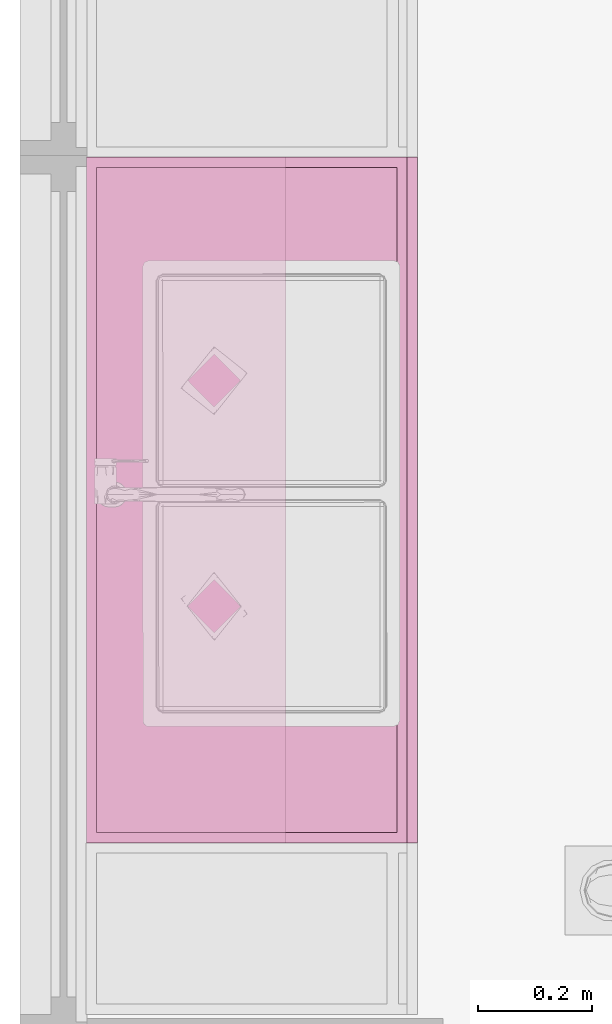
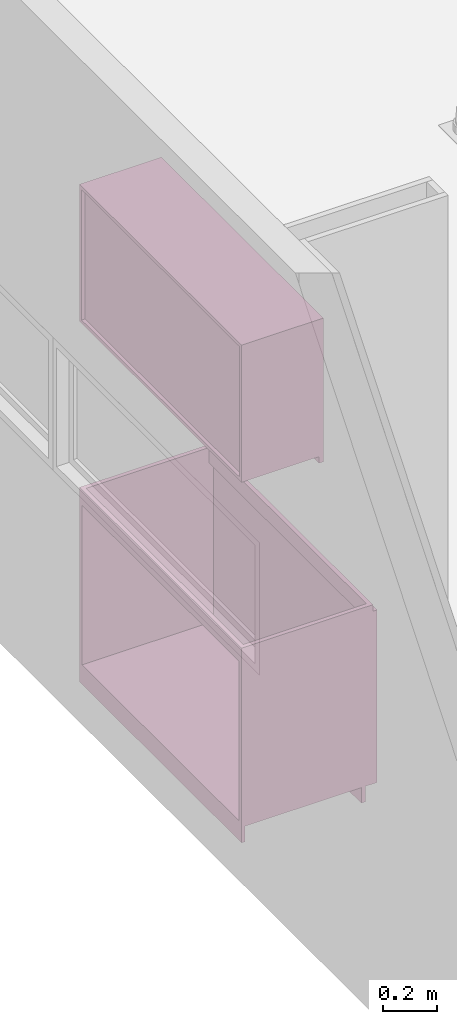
# One storey, part 5 of 5: 2 furnishings.
"""IFC2X3 building model written with IfcOpenShell, lengths in centimetres."""

from ifc_helpers import new_model, entity, si_unit, converted_unit, derived_unit, direction, frame, frame_2d, origin, origin_2d_with_axis, place, context, subcontext, project, spatial, rectangle, extrude, source, transform, mapped, material, material_list, type_object, type_shapes, element, save


model = new_model("IFC2X3")

# Units and contexts
model_context = context("Model", 3, precision=0.001, world=origin(), true_north=direction((6.123233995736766e-17, 1.0)))
body_context = subcontext(model_context, "Body", "Model", "MODEL_VIEW")
ifc_project = project(units=[si_unit("LENGTHUNIT", "METRE", prefix="CENTI"), si_unit("AREAUNIT", "SQUARE_METRE"), si_unit("VOLUMEUNIT", "CUBIC_METRE"), converted_unit("PLANEANGLEUNIT", "DEGREE", entity("IfcPlaneAngleMeasure", 0.017453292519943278), si_unit("PLANEANGLEUNIT", "RADIAN"), dimensions=[0, 0, 0, 0, 0, 0, 0]), si_unit("POWERUNIT", "WATT"), derived_unit("USERDEFINED", [(si_unit("MASSUNIT", "GRAM", prefix="KILO"), 1), (si_unit("TIMEUNIT", "SECOND"), -3)]), si_unit("FORCEUNIT", "NEWTON", prefix="KILO"), derived_unit("THERMALTRANSMITTANCEUNIT", [(si_unit("MASSUNIT", "GRAM", prefix="KILO"), 1), (si_unit("TIMEUNIT", "SECOND"), -3), (si_unit("THERMODYNAMICTEMPERATUREUNIT", "KELVIN"), -1)]), derived_unit("USERDEFINED", [(si_unit("MASSUNIT", "GRAM", prefix="KILO"), 1), (si_unit("THERMODYNAMICTEMPERATUREUNIT", "KELVIN"), -1), (si_unit("TIMEUNIT", "SECOND"), -2)]), derived_unit("THERMALRESISTANCEUNIT", [(si_unit("MASSUNIT", "GRAM", prefix="KILO"), -1), (si_unit("TIMEUNIT", "SECOND"), 3), (si_unit("THERMODYNAMICTEMPERATUREUNIT", "KELVIN"), 1)]), derived_unit("USERDEFINED", [(si_unit("MASSUNIT", "GRAM", prefix="KILO"), -1), (si_unit("TIMEUNIT", "SECOND"), 3), (si_unit("LENGTHUNIT", "METRE"), -2), (si_unit("LUMINOUSFLUXUNIT", "LUMEN"), 1)]), si_unit("LUMINOUSFLUXUNIT", "LUMEN")], contexts=[model_context])

# Site, building, storey, space
site_placement = place(None, origin())
site = spatial("IfcSite", under=ifc_project, at=site_placement, Name="Default", CompositionType="ELEMENT")
building_placement = place(site_placement, origin())
building = spatial("IfcBuilding", under=site, at=building_placement, Name="Workshop Hbaitáculo - Refugio Tierra del Fuego", CompositionType="ELEMENT")
storey_placement = place(building_placement, frame((0.0, 0.0, 123.0)))
storey = spatial("IfcBuildingStorey", under=building, at=storey_placement, Name="NPT", CompositionType="ELEMENT", Elevation=123.0)
space_placement = place(storey_placement, frame((11.549999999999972, -294.2500000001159, 0.0)))
space = spatial("IfcSpace", under=storey, at=space_placement, Name="4", CompositionType="ELEMENT", InteriorOrExteriorSpace="INTERNAL")

# Furnishings
ifc_material_1 = material(Name="Melamina Puertas Mueble de Cocina")
ifc_material_2 = material(Name="<Unnamed>")
ifc_material_list_1 = material_list([ifc_material_1, ifc_material_2])
furniture_type_1 = type_object("IfcFurnitureType", Name="GDV_FAM_M05e_Lavaplatos:GDV_FAM_M05e_Lavaplatos", AssemblyPlace="NOTDEFINED", material=ifc_material_list_1)
shared_shape_1 = source(origin(), body_context, "Body", "SweptSolid", [
    extrude(rectangle(XDim=1.7999999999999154, YDim=56.20000000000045, at=frame_2d((2.708944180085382e-14, -3.552713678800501e-15), x_axis=(1.0, 0.0))), frame((39.49999999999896, -260.1000000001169, 130.0), z_axis=(0.0, 0.0, 1.0), x_axis=(0.0, -1.0, 0.0)), (0.0, 0.0, 1.0), 81.00000000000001),
    extrude(rectangle(XDim=1.800000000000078, YDim=56.20000000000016, at=origin_2d_with_axis()), frame((39.49999999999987, -141.90000000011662, 130.0), z_axis=(0.0, 0.0, 1.0), x_axis=(0.0, -1.0, 0.0)), (0.0, 0.0, 1.0), 81.00000000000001),
    extrude(rectangle(XDim=116.40000000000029, YDim=56.20000000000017, at=frame_2d((0.0, -5.329070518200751e-15), x_axis=(1.0, 0.0))), frame((39.49999999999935, -201.0, 130.0), z_axis=(0.0, 0.0, 1.0), x_axis=(0.0, -1.0, 0.0)), (0.0, 0.0, 1.0), 1.7999999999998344),
    extrude(rectangle(XDim=120.0, YDim=1.5000000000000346, at=origin_2d_with_axis()), frame((12.149999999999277, -201.0, 123.0), z_axis=(0.0, 0.0, 1.0), x_axis=(0.0, -1.0, 0.0)), (0.0, 0.0, 1.0), 7.000000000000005),
    extrude(rectangle(XDim=116.40000000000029, YDim=1.8000000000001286, at=frame_2d((-2.4868995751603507e-14, -8.326672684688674e-16), x_axis=(1.0, 0.0))), frame((12.299999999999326, -201.0, 204.0), z_axis=(0.0, 0.0, 1.0), x_axis=(0.0, -1.0, 0.0)), (0.0, 0.0, 1.0), 6.999999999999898),
    extrude(rectangle(XDim=116.4000000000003, YDim=1.7999999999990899, at=frame_2d((-1.0658141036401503e-14, 0.0), x_axis=(1.0, 0.0))), frame((66.69999999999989, -201.0, 204.0), z_axis=(0.0, 0.0, 1.0), x_axis=(0.0, -1.0, 0.0)), (0.0, 0.0, 1.0), 7.000000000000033),
    extrude(rectangle(XDim=60.0, YDim=1.7999999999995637, at=frame_2d((-2.6645352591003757e-14, 6.772360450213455e-15), x_axis=(1.0, 0.0))), frame((68.49999999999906, -231.0, 130.0), z_axis=(0.0, 0.0, 1.0), x_axis=(0.0, -1.0, 0.0)), (0.0, 0.0, 1.0), 78.00000000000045),
    extrude(rectangle(XDim=60.0, YDim=1.7999999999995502, at=frame_2d((-1.4210854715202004e-14, -6.772360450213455e-15), x_axis=(1.0, 0.0))), frame((68.49999999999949, -171.0, 130.0), z_axis=(0.0, 0.0, 1.0), x_axis=(0.0, -1.0, 0.0)), (0.0, 0.0, 1.0), 78.00000000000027),
    extrude(rectangle(XDim=120.0, YDim=1.7999999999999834, at=origin_2d_with_axis()), frame((63.49999999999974, -201.0, 123.0), z_axis=(0.0, 0.0, 1.0), x_axis=(0.0, -1.0, 0.0)), (0.0, 0.0, 1.0), 7.000000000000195),
])
type_shapes(furniture_type_1, [shared_shape_1])
furnishing_1_placement = place(space_placement, frame((-11.549999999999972, 294.2500000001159, -123.0)))
element("IfcFurnishingElement", 1, at=furnishing_1_placement, inside=space, type_object=furniture_type_1, material=ifc_material_list_1, Name="GDV_FAM_M05e_Lavaplatos:GDV_FAM_M05e_Lavaplatos", ObjectType="GDV_FAM_M05e_Lavaplatos:GDV_FAM_M05e_Lavaplatos", context=body_context, shape_type="MappedRepresentation", body=[
    mapped(shared_shape_1, transform((0.0, 0.0, 0.0), scale=1.0)),
])
ifc_material_3 = material(Name="Melamina Muebles Cocina")
ifc_material_list_2 = material_list([ifc_material_1, ifc_material_3])
furniture_type_2 = type_object("IfcFurnitureType", Name="GDV_FAM_M04c_Aereo doble logia:GDV_FAM_M04c_Aereo doble logia", AssemblyPlace="NOTDEFINED", material=ifc_material_list_2)
shared_shape_2 = source(origin(), body_context, "Body", "SweptSolid", [
    extrude(rectangle(XDim=60.0, YDim=1.7999999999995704, at=frame_2d((0.0, 3.3861802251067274e-15), x_axis=(1.0, 0.0))), frame((90.0, -34.09999999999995, 0.0), z_axis=(0.0, 0.0, 1.0), x_axis=(-1.0, 0.0, 0.0)), (0.0, 0.0, 1.0), 65.00000000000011),
    extrude(rectangle(XDim=117.00000000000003, YDim=27.18293545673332, at=origin_2d_with_axis()), frame((60.0, -16.59146772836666, 33.250000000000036), z_axis=(0.0, 0.0, 1.0), x_axis=(-1.0, 0.0, 0.0)), (0.0, 0.0, 1.0), 1.4999999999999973),
    extrude(rectangle(XDim=60.0, YDim=1.7999999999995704, at=frame_2d((0.0, 3.3861802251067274e-15), x_axis=(1.0, 0.0))), frame((30.0, -34.09999999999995, 0.0), z_axis=(0.0, 0.0, 1.0), x_axis=(-1.0, 0.0, 0.0)), (0.0, 0.0, 1.0), 65.00000000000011),
    extrude(rectangle(XDim=117.00000000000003, YDim=33.199999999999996, at=origin_2d_with_axis()), frame((60.0, -16.599999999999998, 63.500000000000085), z_axis=(0.0, 0.0, 1.0), x_axis=(-1.0, 0.0, 0.0)), (0.0, 0.0, 1.0), 1.5000000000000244),
    extrude(rectangle(XDim=117.00000000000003, YDim=1.4999999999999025, at=origin_2d_with_axis()), frame((60.0, -2.2500000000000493, 4.500000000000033), z_axis=(0.0, 0.0, 1.0), x_axis=(-1.0, 0.0, 0.0)), (0.0, 0.0, 1.0), 59.00000000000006),
    extrude(rectangle(XDim=33.199999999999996, YDim=1.5000000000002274, at=origin_2d_with_axis()), frame((119.25000000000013, -16.599999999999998, 3.0), z_axis=(0.0, 0.0, 1.0), x_axis=(0.0, 1.0, 0.0)), (0.0, 0.0, 1.0), 61.99999999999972),
    extrude(rectangle(XDim=33.199999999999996, YDim=1.5, at=origin_2d_with_axis()), frame((0.75, -16.599999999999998, 3.0), z_axis=(0.0, 0.0, 1.0), x_axis=(0.0, 1.0, 0.0)), (0.0, 0.0, 1.0), 61.99999999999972),
    extrude(rectangle(XDim=117.00000000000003, YDim=33.200000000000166, at=origin_2d_with_axis()), frame((60.0, -16.600000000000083, 3.0), z_axis=(0.0, 0.0, 1.0), x_axis=(-1.0, 0.0, 0.0)), (0.0, 0.0, 1.0), 1.499999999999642),
])
type_shapes(furniture_type_2, [shared_shape_2])
furnishing_2_placement = place(space_placement, frame((-0.15000000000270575, 33.250000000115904, 160.0), z_axis=(0.0, 0.0, 1.0), x_axis=(0.0, 1.0, 0.0)))
element("IfcFurnishingElement", 2, at=furnishing_2_placement, inside=space, type_object=furniture_type_2, material=ifc_material_list_2, Name="GDV_FAM_M04c_Aereo doble logia:GDV_FAM_M04c_Aereo doble logia", ObjectType="GDV_FAM_M04c_Aereo doble logia:GDV_FAM_M04c_Aereo doble logia", context=body_context, shape_type="MappedRepresentation", body=[
    mapped(shared_shape_2, transform((0.0, 0.0, 0.0), scale=1.0)),
])

save(model, "model.ifc")
